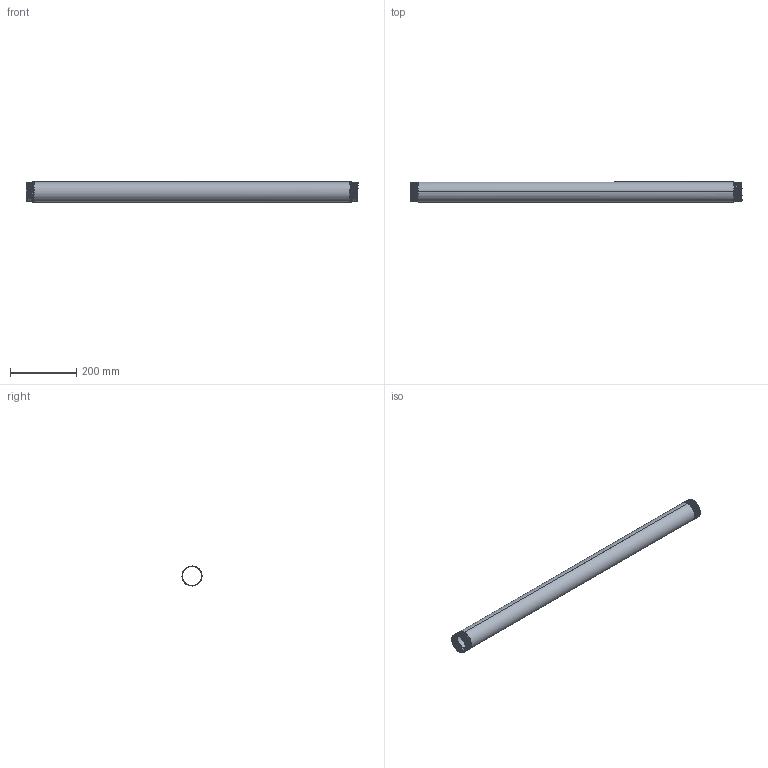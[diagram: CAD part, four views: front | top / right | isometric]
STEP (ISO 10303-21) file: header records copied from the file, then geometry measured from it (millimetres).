
FILE_DESCRIPTION (( 'STEP AP203' ), '1' );
FILE_NAME ('3D_R210_2x1000_17191640.STEP', '2024-08-16T14:55:29', ( '' ), ( '' ), 'SwSTEP 2.0', 'SolidWorks 2024', '' );
FILE_SCHEMA (( 'CONFIG_CONTROL_DESIGN' ));
Length unit declared in the file: millimetre
Products named in the file (1): 3D_R210_2x1000_17191640
Bounding box: 1000 x 60.27 x 60.3 mm (x, y, z)
Volume: 361789.5 mm3; surface area: 371767.9 mm2
Topology: 1 solids, 1 shells, 84 faces, 242 edges, 160 vertices
Faces by surface type: cone 70, bspline 6, cylinder 4, plane 4
Entity records: 15416 total; most frequent: CARTESIAN_POINT 13460, ORIENTED_EDGE 484, DIRECTION 256, EDGE_CURVE 242, VERTEX_POINT 160, B_SPLINE_CURVE_WITH_KNOTS 148, AXIS2_PLACEMENT_3D 91, EDGE_LOOP 86
